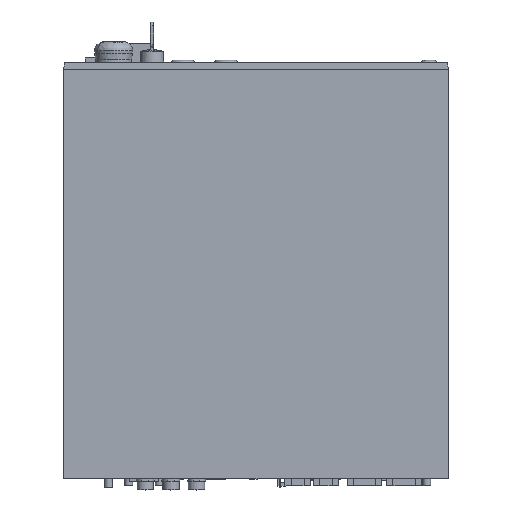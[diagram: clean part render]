
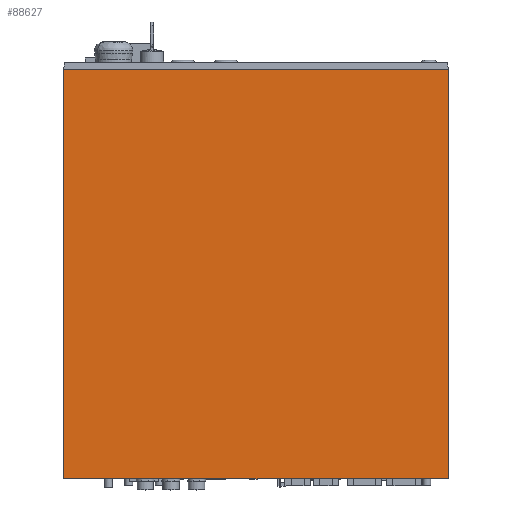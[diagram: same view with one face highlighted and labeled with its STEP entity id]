
A CAD part, top view. The second image highlights one B-rep face of the part: STEP entity #88627.
In plain terms, the highlighted planar face has unit normal (0, 0, 1).
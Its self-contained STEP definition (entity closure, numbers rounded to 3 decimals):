
#88371=CARTESIAN_POINT('Vertex',(-150.,157.,130.)) ;
#88374=CARTESIAN_POINT('Line Origine',(0.,157.,130.)) ;
#88378=CARTESIAN_POINT('Vertex',(150.,157.,130.)) ;
#88549=CARTESIAN_POINT('Line Origine',(150.,-2.5,130.)) ;
#88553=CARTESIAN_POINT('Vertex',(150.,-162.,130.)) ;
#88573=CARTESIAN_POINT('Line Origine',(0.,-162.,130.)) ;
#88577=CARTESIAN_POINT('Vertex',(-150.,-162.,130.)) ;
#88597=CARTESIAN_POINT('Line Origine',(-150.,-2.5,130.)) ;
#88616=CARTESIAN_POINT('Axis2P3D Location',(-150.,157.5,130.)) ;
#88375=DIRECTION('Vector Direction',(1.,0.,0.)) ;
#88550=DIRECTION('Vector Direction',(0.,1.,0.)) ;
#88574=DIRECTION('Vector Direction',(1.,0.,0.)) ;
#88598=DIRECTION('Vector Direction',(0.,-1.,0.)) ;
#88617=DIRECTION('Axis2P3D Direction',(0.,0.,-1.)) ;
#88618=DIRECTION('Axis2P3D XDirection',(1.,0.,0.)) ;
#88619=AXIS2_PLACEMENT_3D('Plane Axis2P3D',#88616,#88617,#88618) ;
#88622=ORIENTED_EDGE('',*,*,#88555,.T.) ;
#88623=ORIENTED_EDGE('',*,*,#88380,.F.) ;
#88624=ORIENTED_EDGE('',*,*,#88601,.T.) ;
#88625=ORIENTED_EDGE('',*,*,#88579,.F.) ;
#88376=VECTOR('Line Direction',#88375,1.) ;
#88551=VECTOR('Line Direction',#88550,1.) ;
#88575=VECTOR('Line Direction',#88574,1.) ;
#88599=VECTOR('Line Direction',#88598,1.) ;
#88627=ADVANCED_FACE('TOP-PLATE(EMC) ASSY.2\\TOP-PLATE(EMC) .1\\\X2\FF8AFF9FFF70FF82\X0\ \X2\FF8EFF9EFF83FF9EFF68FF70\X0\',(#88626),#88620,.F.) ;
#88380=EDGE_CURVE('',#88372,#88379,#88377,.T.) ;
#88555=EDGE_CURVE('',#88554,#88379,#88552,.T.) ;
#88579=EDGE_CURVE('',#88554,#88578,#88576,.F.) ;
#88601=EDGE_CURVE('',#88372,#88578,#88600,.T.) ;
#88621=EDGE_LOOP('',(#88622,#88623,#88624,#88625)) ;
#88626=FACE_OUTER_BOUND('',#88621,.T.) ;
#88377=LINE('Line',#88374,#88376) ;
#88552=LINE('Line',#88549,#88551) ;
#88576=LINE('Line',#88573,#88575) ;
#88600=LINE('Line',#88597,#88599) ;
#88620=PLANE('',#88619) ;
#88372=VERTEX_POINT('',#88371) ;
#88379=VERTEX_POINT('',#88378) ;
#88554=VERTEX_POINT('',#88553) ;
#88578=VERTEX_POINT('',#88577) ;
